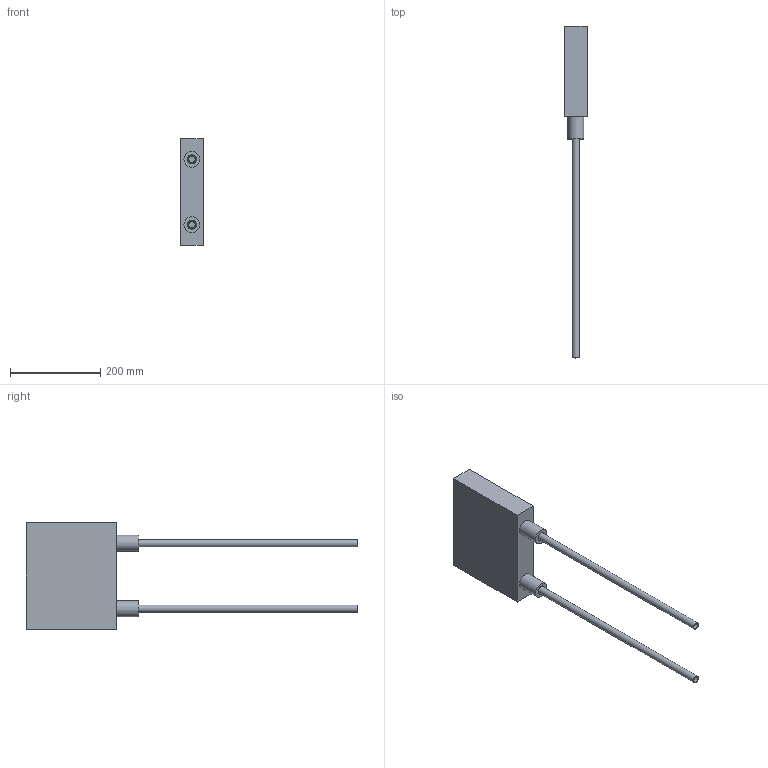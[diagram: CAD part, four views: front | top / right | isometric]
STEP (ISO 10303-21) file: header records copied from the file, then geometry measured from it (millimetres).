
FILE_DESCRIPTION(/* description */ (''),/* implementation_level */ '2;1');
FILE_NAME(/* name */ '\\lg50011\SANHA_LEGNICA\Engineering\Public\PROJEKTY\SANHA-BOX_Support_BiR\002-Rysunki_Boxów\25-BWDU-M\325BWDUM16.stp',/* time_stamp */ '2018-12-18T12:30:35+01:00',/* author */ ('grzegorz.juzak'),/* organization */ (''),/* preprocessor_version */ 'ST-DEVELOPER v17',/* originating_system */ 'Autodesk Inventor 2019',/* authorisation */ '');
FILE_SCHEMA (('AUTOMOTIVE_DESIGN { 1 0 10303 214 3 1 1 }'));
Length unit declared in the file: millimetre
Products named in the file (3): Zespół1-325BWDUM16; 325BWDUM20; Rura_16x2
Assembly tree (3 placements, depth 2):
  Zespół1-325BWDUM16
    325BWDUM20
    Rura_16x2  x2
Bounding box: 50.5 x 734.9 x 235 mm (x, y, z)
Volume: 2438048.4 mm3; surface area: 254726.5 mm2
Topology: 3 solids, 3 shells, 106 faces, 252 edges, 168 vertices
Faces by surface type: plane 78, bspline 16, cylinder 12
Full cylindrical faces by diameter (mm): 14 x2, 16 x2, 18.631 x2, 20 x2, 21 x2, 35 x2
Entity records: 3148 total; most frequent: CARTESIAN_POINT 726, ORIENTED_EDGE 492, DIRECTION 418, EDGE_CURVE 246, LINE 194, VECTOR 194, VERTEX_POINT 164, EDGE_LOOP 120
